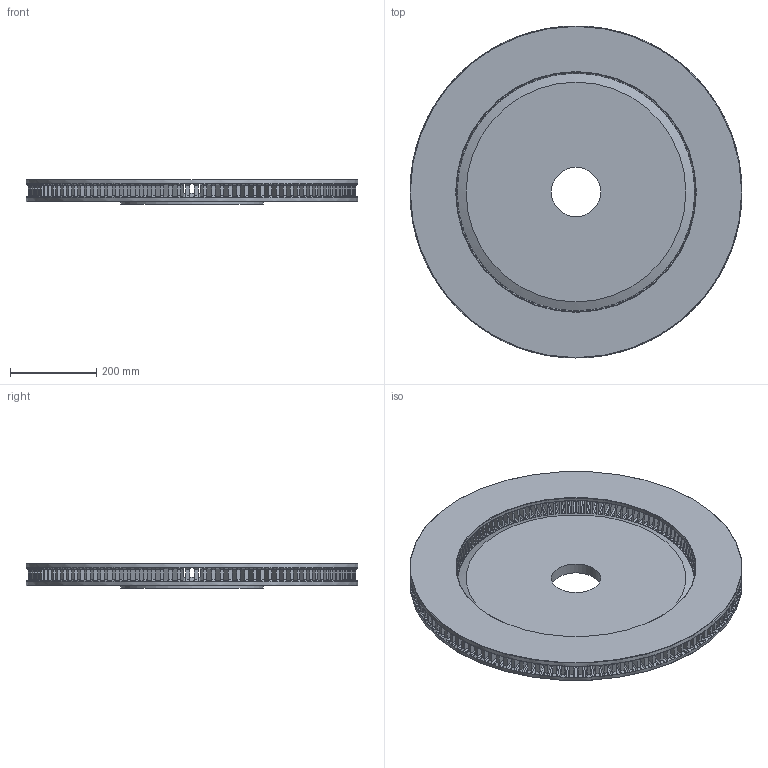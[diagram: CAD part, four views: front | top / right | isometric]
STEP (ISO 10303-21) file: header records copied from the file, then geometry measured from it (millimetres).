
FILE_DESCRIPTION (( 'STEP AP203' ), '1' );
FILE_NAME ('2-4-30.STEP', '2016-10-24T17:42:45', ( '' ), ( '' ), 'SwSTEP 2.0', 'SolidWorks 2015', '' );
FILE_SCHEMA (( 'CONFIG_CONTROL_DESIGN' ));
Products named in the file (1): 2-4-30
Bounding box: 768.35 x 768.35 x 57.15 mm (x, y, z)
Volume: 11529031.4 mm3; surface area: 2032787.5 mm2
Topology: 1 solids, 1 shells, 1454 faces, 4347 edges, 2657 vertices
Faces by surface type: cylinder 605, plane 484, cone 365
Full cylindrical faces by diameter (mm): 114.3 x1, 330.2 x1, 555.625 x1, 768.35 x2
Entity records: 62731 total; most frequent: CARTESIAN_POINT 26423, ORIENTED_EDGE 8664, DIRECTION 6534, EDGE_CURVE 4332, AXIS2_PLACEMENT_3D 2667, VERTEX_POINT 2652, B_SPLINE_CURVE_WITH_KNOTS 1920, EDGE_LOOP 1468
